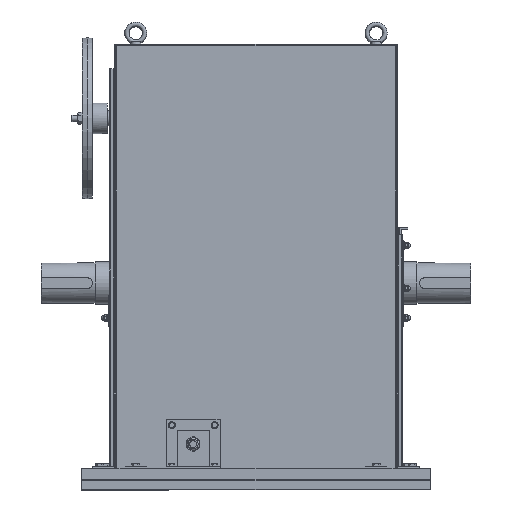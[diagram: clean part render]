
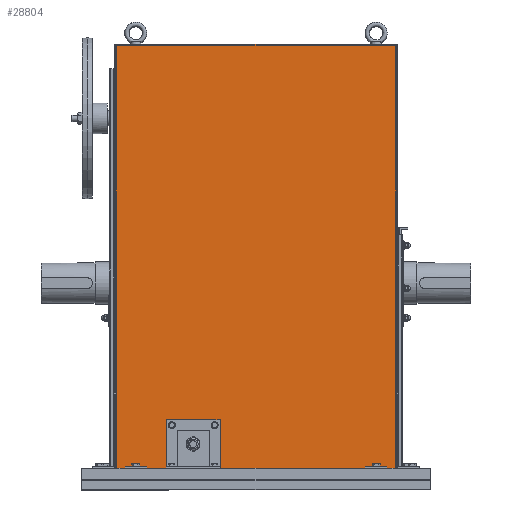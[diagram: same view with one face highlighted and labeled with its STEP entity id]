
A CAD part, top view. The second image highlights one B-rep face of the part: STEP entity #28804.
In plain terms, the highlighted planar face has unit normal (0, 0, 1).
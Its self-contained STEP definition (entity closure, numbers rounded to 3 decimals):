
#38 = ORIENTED_EDGE ( 'NONE', *, *, #10819, .T. ) ;
#66 = CARTESIAN_POINT ( 'NONE',  ( 233., -345.5, 365. ) ) ;
#174 = EDGE_CURVE ( 'NONE', #18149, #20980, #16219, .T. ) ;
#788 = EDGE_CURVE ( 'NONE', #14970, #7332, #19685, .T. ) ;
#1103 = DIRECTION ( 'NONE',  ( 1., 0., 0. ) ) ;
#1110 = CARTESIAN_POINT ( 'NONE',  ( 138.3, -345.5, 365. ) ) ;
#1824 = ORIENTED_EDGE ( 'NONE', *, *, #13631, .T. ) ;
#2063 = CARTESIAN_POINT ( 'NONE',  ( 196., -343.2, 365. ) ) ;
#2119 = CARTESIAN_POINT ( 'NONE',  ( 333., -255.5, 365. ) ) ;
#2391 = CARTESIAN_POINT ( 'NONE',  ( 604., -345.5, 365. ) ) ;
#3377 = EDGE_CURVE ( 'NONE', #14970, #12420, #29132, .T. ) ;
#3474 = ORIENTED_EDGE ( 'NONE', *, *, #12560, .F. ) ;
#3504 = DIRECTION ( 'NONE',  ( 1., 0., 0. ) ) ;
#3999 = LINE ( 'NONE', #28670, #23264 ) ;
#4072 = CARTESIAN_POINT ( 'NONE',  ( 196., -343.2, 365. ) ) ;
#4504 = CARTESIAN_POINT ( 'NONE',  ( 333., -345.5, 365. ) ) ;
#4518 = ORIENTED_EDGE ( 'NONE', *, *, #11283, .T. ) ;
#4932 = LINE ( 'NONE', #7001, #18911 ) ;
#5007 = DIRECTION ( 'NONE',  ( 1., 0., 0. ) ) ;
#5102 = VERTEX_POINT ( 'NONE', #12146 ) ;
#5348 = ORIENTED_EDGE ( 'NONE', *, *, #19408, .F. ) ;
#5722 = LINE ( 'NONE', #23875, #5817 ) ;
#5817 = VECTOR ( 'NONE', #3504, 1000. ) ;
#6040 = VECTOR ( 'NONE', #19534, 1000. ) ;
#6398 = ORIENTED_EDGE ( 'NONE', *, *, #174, .T. ) ;
#7001 = CARTESIAN_POINT ( 'NONE',  ( 156., -343.2, 365. ) ) ;
#7332 = VERTEX_POINT ( 'NONE', #16321 ) ;
#7802 = DIRECTION ( 'NONE',  ( 0., -1., 0. ) ) ;
#8876 = DIRECTION ( 'NONE',  ( 0., -1., 0. ) ) ;
#8941 = DIRECTION ( 'NONE',  ( 0., -1., 0. ) ) ;
#9218 = DIRECTION ( 'NONE',  ( 0., -1., 0. ) ) ;
#9862 = CARTESIAN_POINT ( 'NONE',  ( 604., -343.2, 365. ) ) ;
#10008 = LINE ( 'NONE', #26069, #17534 ) ;
#10319 = CARTESIAN_POINT ( 'NONE',  ( 156., -345.5, 365. ) ) ;
#10328 = LINE ( 'NONE', #28189, #17947 ) ;
#10386 = VERTEX_POINT ( 'NONE', #12245 ) ;
#10742 = FACE_OUTER_BOUND ( 'NONE', #18105, .T. ) ;
#10808 = DIRECTION ( 'NONE',  ( 0., 1., 0. ) ) ;
#10819 = EDGE_CURVE ( 'NONE', #11415, #28504, #19758, .T. ) ;
#11283 = EDGE_CURVE ( 'NONE', #18196, #18149, #10008, .T. ) ;
#11415 = VERTEX_POINT ( 'NONE', #4072 ) ;
#11433 = VERTEX_POINT ( 'NONE', #12849 ) ;
#11456 = LINE ( 'NONE', #22753, #18470 ) ;
#11533 = EDGE_CURVE ( 'NONE', #11433, #12502, #23077, .T. ) ;
#11621 = DIRECTION ( 'NONE',  ( 0., -1., 0. ) ) ;
#11727 = EDGE_CURVE ( 'NONE', #20980, #18701, #12816, .T. ) ;
#12146 = CARTESIAN_POINT ( 'NONE',  ( 156., -343.2, 365. ) ) ;
#12245 = CARTESIAN_POINT ( 'NONE',  ( 661.7, 444.5, 365. ) ) ;
#12310 = VECTOR ( 'NONE', #25161, 1000. ) ;
#12325 = VECTOR ( 'NONE', #8876, 1000. ) ;
#12345 = VECTOR ( 'NONE', #11621, 1000. ) ;
#12405 = VECTOR ( 'NONE', #27702, 1000. ) ;
#12420 = VERTEX_POINT ( 'NONE', #10319 ) ;
#12502 = VERTEX_POINT ( 'NONE', #2119 ) ;
#12560 = EDGE_CURVE ( 'NONE', #16019, #27423, #15937, .T. ) ;
#12744 = EDGE_CURVE ( 'NONE', #12502, #16019, #25902, .T. ) ;
#12799 = CARTESIAN_POINT ( 'NONE',  ( 138.3, -345.5, 365. ) ) ;
#12816 = LINE ( 'NONE', #28571, #14243 ) ;
#12849 = CARTESIAN_POINT ( 'NONE',  ( 333., -345.5, 365. ) ) ;
#12854 = VERTEX_POINT ( 'NONE', #2391 ) ;
#12953 = DIRECTION ( 'NONE',  ( 1., 0., 0. ) ) ;
#13379 = ORIENTED_EDGE ( 'NONE', *, *, #788, .F. ) ;
#13631 = EDGE_CURVE ( 'NONE', #11433, #12854, #11456, .T. ) ;
#13724 = ORIENTED_EDGE ( 'NONE', *, *, #11533, .F. ) ;
#13862 = CARTESIAN_POINT ( 'NONE',  ( 644., -343.2, 365. ) ) ;
#14059 = CARTESIAN_POINT ( 'NONE',  ( 196., -345.5, 365. ) ) ;
#14243 = VECTOR ( 'NONE', #26330, 1000. ) ;
#14970 = VERTEX_POINT ( 'NONE', #18509 ) ;
#15125 = VECTOR ( 'NONE', #5007, 1000. ) ;
#15267 = ORIENTED_EDGE ( 'NONE', *, *, #19310, .T. ) ;
#15510 = CARTESIAN_POINT ( 'NONE',  ( 233., -345.5, 365. ) ) ;
#15574 = VECTOR ( 'NONE', #12953, 1000. ) ;
#15613 = DIRECTION ( 'NONE',  ( 1., 0., 0. ) ) ;
#15937 = LINE ( 'NONE', #15510, #28495 ) ;
#16019 = VERTEX_POINT ( 'NONE', #19787 ) ;
#16219 = LINE ( 'NONE', #13862, #12345 ) ;
#16321 = CARTESIAN_POINT ( 'NONE',  ( 138.3, 444.5, 365. ) ) ;
#16366 = EDGE_CURVE ( 'NONE', #18196, #12854, #23428, .T. ) ;
#16478 = EDGE_CURVE ( 'NONE', #5102, #11415, #5722, .T. ) ;
#17534 = VECTOR ( 'NONE', #1103, 1000. ) ;
#17578 = CARTESIAN_POINT ( 'NONE',  ( 644., -343.2, 365. ) ) ;
#17584 = DIRECTION ( 'NONE',  ( -1., 0., 0. ) ) ;
#17947 = VECTOR ( 'NONE', #23577, 1000. ) ;
#18105 = EDGE_LOOP ( 'NONE', ( #24184, #13724, #1824, #28414, #4518, #6398, #26067, #21676, #5348, #13379, #26475, #29171, #20927, #38, #15267, #3474 ) ) ;
#18149 = VERTEX_POINT ( 'NONE', #17578 ) ;
#18196 = VERTEX_POINT ( 'NONE', #18437 ) ;
#18437 = CARTESIAN_POINT ( 'NONE',  ( 604., -343.2, 365. ) ) ;
#18470 = VECTOR ( 'NONE', #15613, 1000. ) ;
#18509 = CARTESIAN_POINT ( 'NONE',  ( 138.3, -345.5, 365. ) ) ;
#18701 = VERTEX_POINT ( 'NONE', #28897 ) ;
#18911 = VECTOR ( 'NONE', #9218, 1000. ) ;
#19310 = EDGE_CURVE ( 'NONE', #28504, #27423, #22997, .T. ) ;
#19408 = EDGE_CURVE ( 'NONE', #7332, #10386, #10328, .T. ) ;
#19534 = DIRECTION ( 'NONE',  ( 0., 1., 0. ) ) ;
#19677 = EDGE_CURVE ( 'NONE', #5102, #12420, #4932, .T. ) ;
#19685 = LINE ( 'NONE', #1110, #6040 ) ;
#19758 = LINE ( 'NONE', #2063, #12325 ) ;
#19787 = CARTESIAN_POINT ( 'NONE',  ( 233., -255.5, 365. ) ) ;
#19815 = PLANE ( 'NONE',  #22041 ) ;
#20927 = ORIENTED_EDGE ( 'NONE', *, *, #16478, .T. ) ;
#20980 = VERTEX_POINT ( 'NONE', #21234 ) ;
#21025 = EDGE_CURVE ( 'NONE', #18701, #10386, #3999, .T. ) ;
#21234 = CARTESIAN_POINT ( 'NONE',  ( 644., -345.5, 365. ) ) ;
#21622 = CARTESIAN_POINT ( 'NONE',  ( 138.3, -345.5, 365. ) ) ;
#21676 = ORIENTED_EDGE ( 'NONE', *, *, #21025, .T. ) ;
#22041 = AXIS2_PLACEMENT_3D ( 'NONE', #21622, #24012, #17584 ) ;
#22753 = CARTESIAN_POINT ( 'NONE',  ( 138.3, -345.5, 365. ) ) ;
#22997 = LINE ( 'NONE', #23291, #15125 ) ;
#23077 = LINE ( 'NONE', #4504, #12310 ) ;
#23264 = VECTOR ( 'NONE', #10808, 1000. ) ;
#23291 = CARTESIAN_POINT ( 'NONE',  ( 138.3, -345.5, 365. ) ) ;
#23428 = LINE ( 'NONE', #9862, #29062 ) ;
#23577 = DIRECTION ( 'NONE',  ( 1., 0., 0. ) ) ;
#23875 = CARTESIAN_POINT ( 'NONE',  ( 196., -343.2, 365. ) ) ;
#24012 = DIRECTION ( 'NONE',  ( 0., 0., -1. ) ) ;
#24184 = ORIENTED_EDGE ( 'NONE', *, *, #12744, .F. ) ;
#25161 = DIRECTION ( 'NONE',  ( 0., 1., 0. ) ) ;
#25461 = CARTESIAN_POINT ( 'NONE',  ( 233., -255.5, 365. ) ) ;
#25902 = LINE ( 'NONE', #25461, #12405 ) ;
#26067 = ORIENTED_EDGE ( 'NONE', *, *, #11727, .T. ) ;
#26069 = CARTESIAN_POINT ( 'NONE',  ( 604., -343.2, 365. ) ) ;
#26330 = DIRECTION ( 'NONE',  ( 1., 0., 0. ) ) ;
#26475 = ORIENTED_EDGE ( 'NONE', *, *, #3377, .T. ) ;
#27423 = VERTEX_POINT ( 'NONE', #66 ) ;
#27702 = DIRECTION ( 'NONE',  ( -1., 0., 0. ) ) ;
#28189 = CARTESIAN_POINT ( 'NONE',  ( 138.3, 444.5, 365. ) ) ;
#28414 = ORIENTED_EDGE ( 'NONE', *, *, #16366, .F. ) ;
#28495 = VECTOR ( 'NONE', #8941, 1000. ) ;
#28504 = VERTEX_POINT ( 'NONE', #14059 ) ;
#28571 = CARTESIAN_POINT ( 'NONE',  ( 138.3, -345.5, 365. ) ) ;
#28670 = CARTESIAN_POINT ( 'NONE',  ( 661.7, -345.5, 365. ) ) ;
#28804 = ADVANCED_FACE ( 'NONE', ( #10742 ), #19815, .F. ) ;
#28897 = CARTESIAN_POINT ( 'NONE',  ( 661.7, -345.5, 365. ) ) ;
#29062 = VECTOR ( 'NONE', #7802, 1000. ) ;
#29132 = LINE ( 'NONE', #12799, #15574 ) ;
#29171 = ORIENTED_EDGE ( 'NONE', *, *, #19677, .F. ) ;
